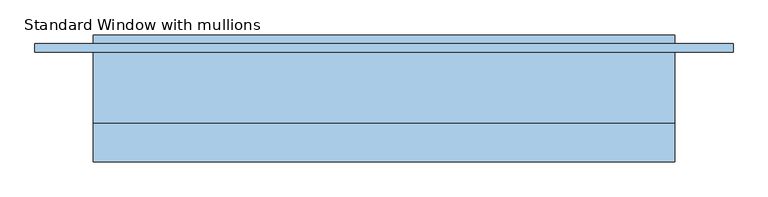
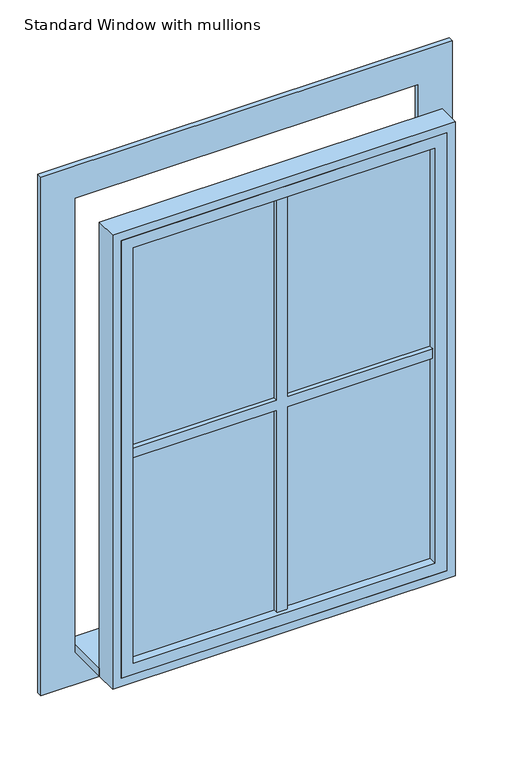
"""IFC4 building model written with IfcOpenShell, lengths in millimetres: window geometry, Standard Window with mullions : 1000/1400."""

from ifc_helpers import new_model, si_unit, frame, origin, place, context, project, spatial, polyline, outline, extrude, source, transform, mapped, element, save


def standard_window_with_mullions_12e20a72(model_context):
    return source(origin(), model_context, "Body", "SweptSolid", [
        extrude(outline(polyline([(500.0, 26.9623738), (-500.0, 26.9623738), (-500.0, 180.0), (500.0, 180.0), (500.0, 26.9623738)])), frame((0.0, 0.0, 1000.0), z_axis=(0.0, 0.0, 1.0), x_axis=(1.0, 0.0, 0.0)), (0.0, 0.0, 1.0), 25.0),
        extrude(outline(polyline([(2500.0, -600.0), (900.0, -600.0), (900.0, 600.0), (2500.0, 600.0), (2500.0, -600.0)]), holes=[polyline([(2400.0, -500.0), (2400.0, 500.0), (1000.0, 500.0), (1000.0, -500.0), (2400.0, -500.0)])]), frame((0.0, 150.0, 0.0), z_axis=(0.0, 1.0, 0.0), x_axis=(0.0, 0.0, 1.0)), (0.0, 0.0, 1.0), 15.0),
        extrude(outline(polyline([(2375.0, -475.0), (1025.0, -475.0), (1025.0, 475.0), (2375.0, 475.0), (2375.0, -475.0)]), holes=[polyline([(2340.0, -440.0), (2340.0, 440.0), (1060.0, 440.0), (1060.0, -440.0), (2340.0, -440.0)])]), frame((0.0, -39.0188131, 0.0), z_axis=(0.0, 1.0, 0.0), x_axis=(0.0, 0.0, 1.0)), (0.0, 0.0, 1.0), 50.5),
        extrude(outline(polyline([(1000.0, -500.0), (1000.0, 500.0), (2400.0, 500.0), (2400.0, -500.0), (1000.0, -500.0)]), holes=[polyline([(1025.0, -475.0), (2375.0, -475.0), (2375.0, 475.0), (1025.0, 475.0), (1025.0, -475.0)])]), frame((0.0, -39.0188131, 0.0), z_axis=(0.0, 1.0, 0.0), x_axis=(0.0, 0.0, 1.0)), (0.0, 0.0, 1.0), 65.9811869),
        extrude(outline(polyline([(1715.0, 440.0), (1715.0, 15.0), (2340.0, 15.0), (2340.0, -15.0), (1715.0, -15.0), (1715.0, -440.0), (1685.0, -440.0), (1685.0, -15.0), (1060.0, -15.0), (1060.0, 15.0), (1685.0, 15.0), (1685.0, 440.0), (1715.0, 440.0)])), frame((0.0, -28.5188131, 0.0), z_axis=(0.0, 1.0, 0.0), x_axis=(0.0, 0.0, 1.0)), (0.0, 0.0, 1.0), 20.0),
        extrude(outline(polyline([(440.0, -15.5188131), (-440.0, -15.5188131), (-440.0, -13.5188131), (440.0, -13.5188131), (440.0, -15.5188131)])), frame((0.0, 0.0, 1060.0), z_axis=(0.0, 0.0, 1.0), x_axis=(1.0, 0.0, 0.0)), (0.0, 0.0, 1.0), 1280.0),
    ])


if __name__ == "__main__":
    model = new_model("IFC4")
    model_context = context("Model", 3, world=origin())
    ifc_project = project(units=[si_unit("LENGTHUNIT", "METRE", prefix="MILLI")], contexts=[model_context])
    site = spatial("IfcSite", under=ifc_project)
    building = spatial("IfcBuilding", under=site)
    placement = place(None, origin())
    standard_window_with_mullions_shape = standard_window_with_mullions_12e20a72(model_context)
    element("IfcWindow", 1, ObjectType="Standard Window with mullions : 1000/1400", at=placement, inside=building, context=model_context, shape_type="MappedRepresentation", body=[
        mapped(standard_window_with_mullions_shape, transform((0.0, 0.0, 0.0), x_axis=(1.0, 0.0, 0.0), y_axis=(0.0, 1.0, 0.0), z_axis=(0.0, 0.0, 1.0))),
    ])
    save(model, "model.ifc")
